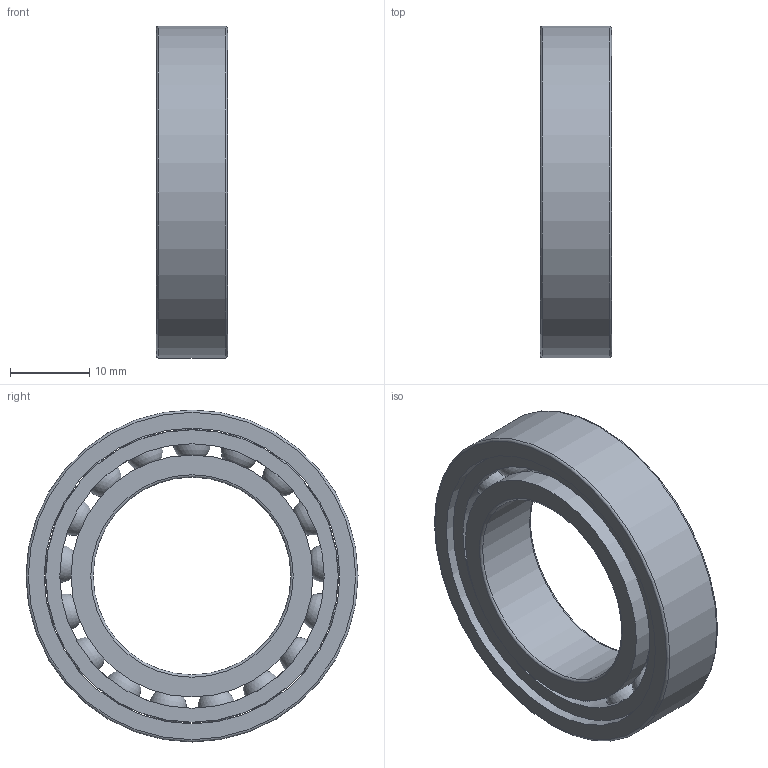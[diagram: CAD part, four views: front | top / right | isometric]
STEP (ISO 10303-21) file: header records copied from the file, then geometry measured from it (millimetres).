
FILE_DESCRIPTION(/* description */ (''),/* implementation_level */ '2;1');
FILE_NAME(/* name */ 'S_61905_TA.step',/* time_stamp */ '2013-03-06T14:46:46+01:00',/* author */ ('Marian'),/* organization */ ('GMN'),/* preprocessor_version */ 'ST-DEVELOPER v11',/* originating_system */ 'SIEMENS UGS NX 6.0',/* authorisation */ '');
FILE_SCHEMA (('CONFIG_CONTROL_DESIGN'));
Length unit declared in the file: millimetre
Products named in the file (1): S_61905_TA
Bounding box: 9 x 42 x 42 mm (x, y, z)
Volume: 5961.3 mm3; surface area: 7779.1 mm2
Topology: 20 solids, 20 shells, 54 faces, 136 edges, 88 vertices
Faces by surface type: cylinder 24, sphere 17, torus 6, plane 6, cone 1
Full cylindrical faces by diameter (mm): 4.962 x17, 25 x1, 30.6 x2, 33.462 x1, 37 x1, 37.4 x1, 42 x1
Entity records: 3116 total; most frequent: CARTESIAN_POINT 2118, DIRECTION 150, FACE_BOUND 125, EDGE_LOOP 108, ORIENTED_EDGE 108, AXIS2_PLACEMENT_3D 75, VERTEX_POINT 71, EDGE_CURVE 54
